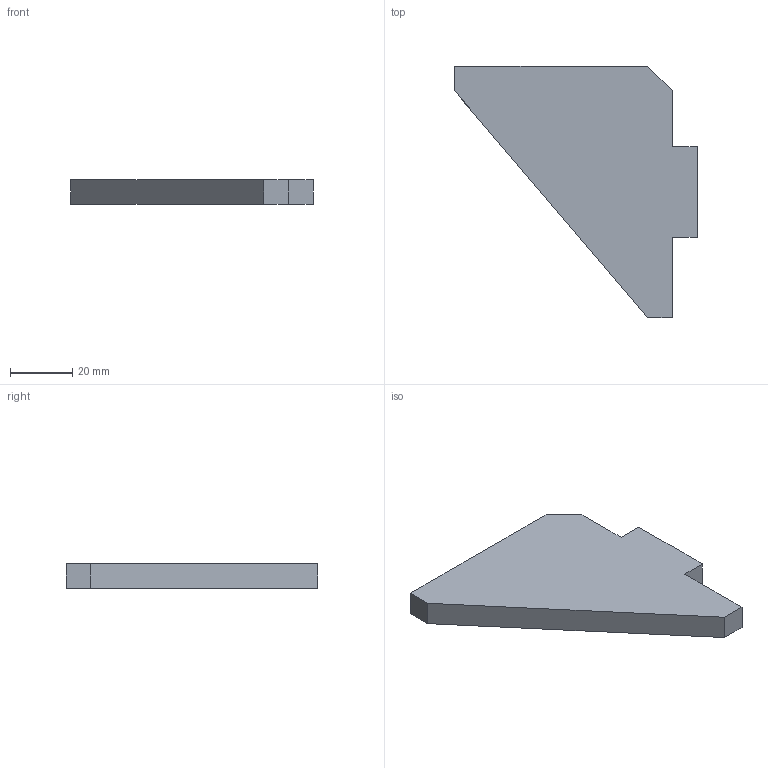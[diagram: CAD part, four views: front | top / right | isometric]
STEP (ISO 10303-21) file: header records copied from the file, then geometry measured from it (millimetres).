
FILE_DESCRIPTION(/* description */ (''),/* implementation_level */ '2;1');
FILE_NAME(/* name */ 'Support_ver2.step',/* time_stamp */ '2026-07-24T14:33:21+02:00',/* author */ ('dariu'),/* organization */ (''),/* preprocessor_version */ 'ST-DEVELOPER v20.1',/* originating_system */ 'Autodesk Inventor 2026',/* authorisation */ '');
FILE_SCHEMA (('AUTOMOTIVE_DESIGN { 1 0 10303 214 3 1 1 }'));
Length unit declared in the file: millimetre
Products named in the file (1): Support_ver1
Bounding box: 78 x 81 x 8 mm (x, y, z)
Volume: 28856 mm3; surface area: 9406.7 mm2
Topology: 1 solids, 1 shells, 12 faces, 30 edges, 20 vertices
Faces by surface type: plane 12
Entity records: 397 total; most frequent: CARTESIAN_POINT 63, ORIENTED_EDGE 60, DIRECTION 56, LINE 30, VECTOR 30, EDGE_CURVE 30, VERTEX_POINT 20, AXIS2_PLACEMENT_3D 13
